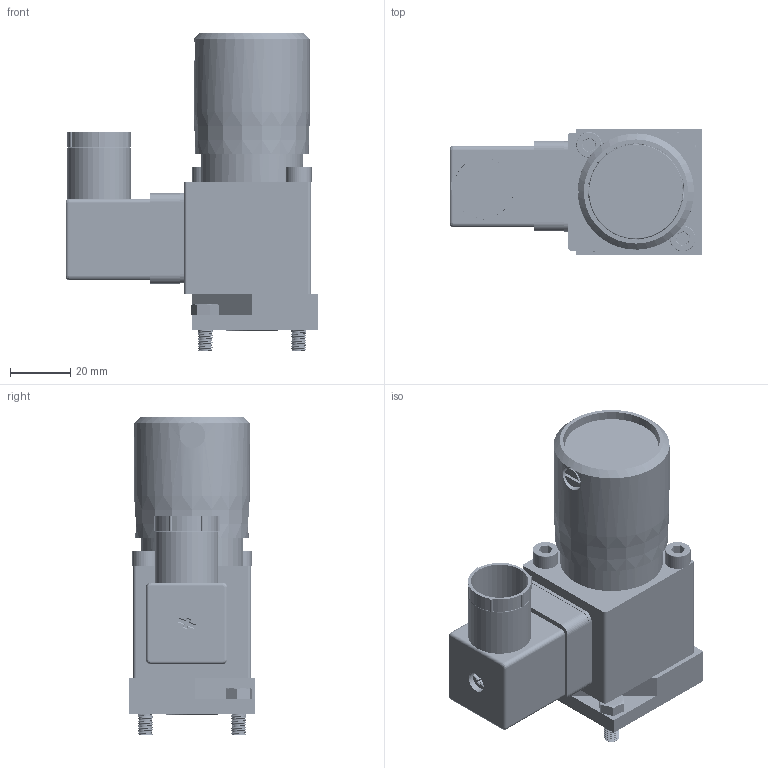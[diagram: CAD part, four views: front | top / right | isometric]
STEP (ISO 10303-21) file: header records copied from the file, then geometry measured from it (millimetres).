
FILE_DESCRIPTION(/* description */ (''),/* implementation_level */ '2;1');
FILE_NAME(/* name */ 'HED8-OH压力继电器.prt.stp',/* time_stamp */ '2022-03-30T19:54:22+08:00',/* author */ (''),/* organization */ (''),/* preprocessor_version */ 'ST-DEVELOPER v16.7',/* originating_system */ 'SIEMENS PLM Software NX 12.0',/* authorisation */ '');
FILE_SCHEMA (('AUTOMOTIVE_DESIGN { 1 0 10303 214 3 1 1 1 }'));
Products named in the file (1): HED8-OH压力继电器
Bounding box: 83.7 x 42 x 105.3 mm (x, y, z)
Volume: 152782 mm3; surface area: 56200.1 mm2
Topology: 22 solids, 25 shells, 733 faces, 1956 edges, 1291 vertices
Faces by surface type: cylinder 377, plane 290, bspline 46, torus 12, cone 5, sphere 3
Full cylindrical faces by diameter (mm): 1.8 x6, 2.5 x42, 3 x97, 3.5 x6, 4 x8, 4.134 x2, 5 x59, 5.424 x1, 5.5 x2, 5.6 x2, 6 x1, 6.5 x4, 7 x2, 8.5 x3, 11.5 x1, 18.5 x1, 19 x1, 21 x1, 31 x1, 31.5 x1, 32 x1, 34 x1, 36 x1, 38.5 x1
Entity records: 82165 total; most frequent: CARTESIAN_POINT 69802, ORIENTED_EDGE 2458, DIRECTION 2376, EDGE_CURVE 1229, AXIS2_PLACEMENT_3D 847, VERTEX_POINT 845, LINE 682, VECTOR 682
